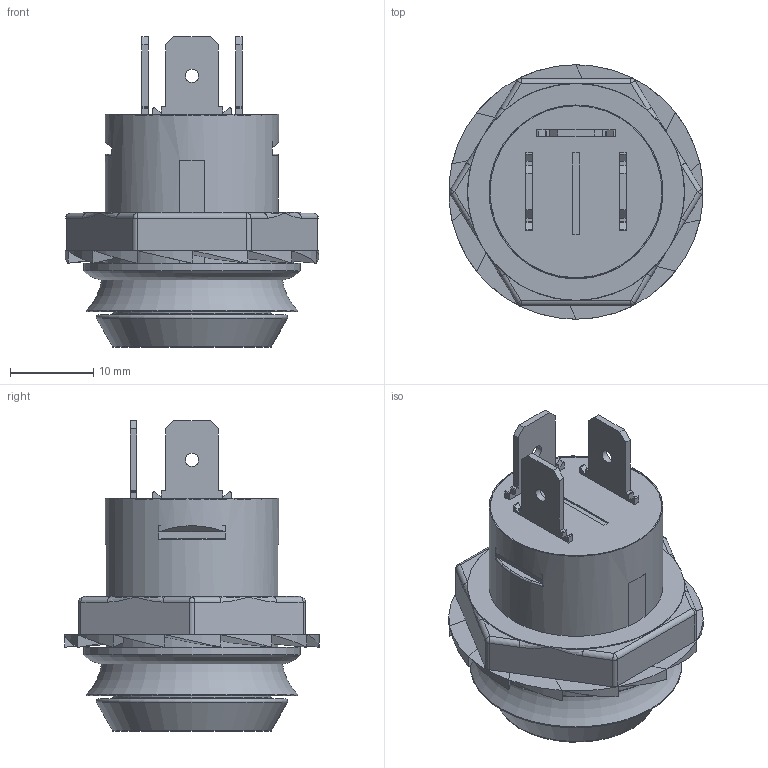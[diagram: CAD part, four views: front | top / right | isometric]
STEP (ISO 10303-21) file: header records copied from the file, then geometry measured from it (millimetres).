
FILE_DESCRIPTION(/* description */ (''),/* implementation_level */ '2;1');
FILE_NAME(/* name */ 'PC-1B-DC-1-RL.stp',/* time_stamp */ '2024-05-03T09:24:06-07:00',/* author */ ('tylerl'),/* organization */ (''),/* preprocessor_version */ 'ST-DEVELOPER v20',/* originating_system */ 'Autodesk Inventor 2025',/* authorisation */ '');
FILE_SCHEMA (('AUTOMOTIVE_DESIGN { 1 0 10303 214 3 1 1 }'));
Products named in the file (6): PC-1B-DC-1-RL; Bottom; Top; Bigger top; Base; Ring
Assembly tree (5 placements, depth 2):
  PC-1B-DC-1-RL
    Bottom
    Top
    Bigger top
    Base
    Ring
Bounding box: 30.42 x 30.5 x 37.25 mm (x, y, z)
Volume: 11646.7 mm3; surface area: 7343.2 mm2
Topology: 5 solids, 5 shells, 220 faces, 551 edges, 325 vertices
Faces by surface type: plane 146, cylinder 53, bspline 8, torus 6, sphere 6, cone 1
Full cylindrical faces by diameter (mm): 1.6 x3, 19 x3, 20.6 x1, 20.8 x1, 20.85 x1, 25.992 x1, 26 x1
Entity records: 6918 total; most frequent: CARTESIAN_POINT 1398, DIRECTION 1145, ORIENTED_EDGE 1092, EDGE_CURVE 546, AXIS2_PLACEMENT_3D 392, LINE 361, VECTOR 361, VERTEX_POINT 325
